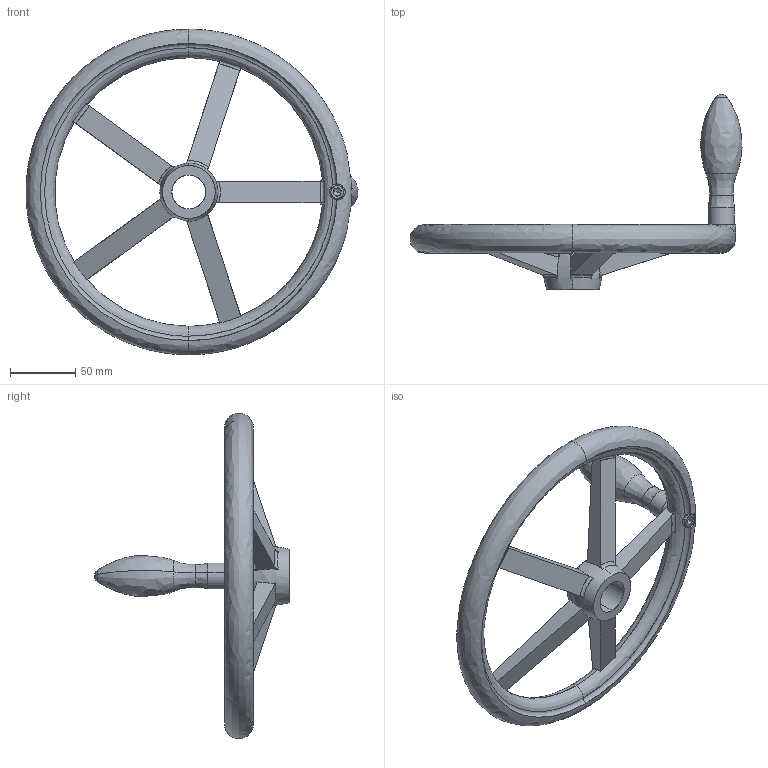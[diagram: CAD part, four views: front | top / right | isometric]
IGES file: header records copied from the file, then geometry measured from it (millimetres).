
Start section: SolidWorks IGES file using analytic representation for surfaces
Global section: file name: C:\Users\IanO\Desktop\Temp File\Process pending\77120_v2\77120_v2_20171108_IGES\77120.W0441.igs; native system: SolidWorks 2017; preprocessor: SolidWorks 2017; author: IanO; date: 171108.084749; units: millimetre
Bounding box: 254.83 x 150 x 250 mm (x, y, z)
Surface area: 89154.8 mm2 (no closed solid volume)
Topology: 0 solids, 0 shells, 135 faces, 1795 edges, 1786 vertices
Faces by surface type: bspline 73, revolution 62
